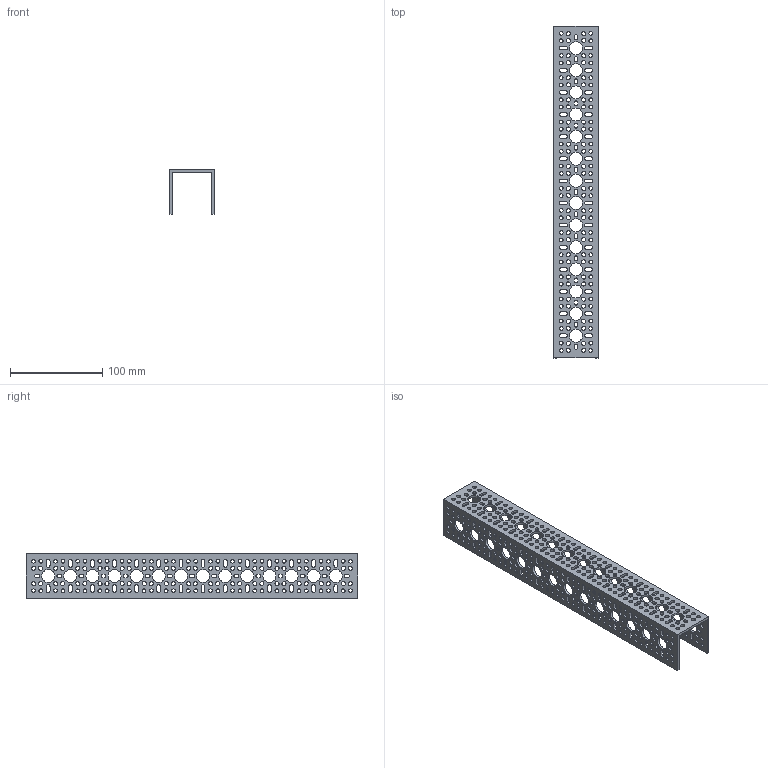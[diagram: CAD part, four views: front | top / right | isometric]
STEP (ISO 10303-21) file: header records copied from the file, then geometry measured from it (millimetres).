
FILE_DESCRIPTION (( 'STEP AP203' ), '1' );
FILE_NAME ('1100-0014-0360 rev1.STEP', '2017-05-12T21:04:07', ( '' ), ( '' ), 'SwSTEP 2.0', 'SolidWorks 2016', '' );
FILE_SCHEMA (( 'CONFIG_CONTROL_DESIGN' ));
Products named in the file (1): 1100-0014-0360 rev1
Bounding box: 48 x 360 x 48 mm (x, y, z)
Volume: 87784.6 mm3; surface area: 95598 mm2
Topology: 1 solids, 1 shells, 1912 faces, 5730 edges, 3820 vertices
Faces by surface type: cylinder 1284, plane 628
Entity records: 67823 total; most frequent: DIRECTION 12124, CARTESIAN_POINT 11463, ORIENTED_EDGE 11460, EDGE_CURVE 5730, AXIS2_PLACEMENT_3D 4481, VERTEX_POINT 3820, VECTOR 3162, LINE 3162
